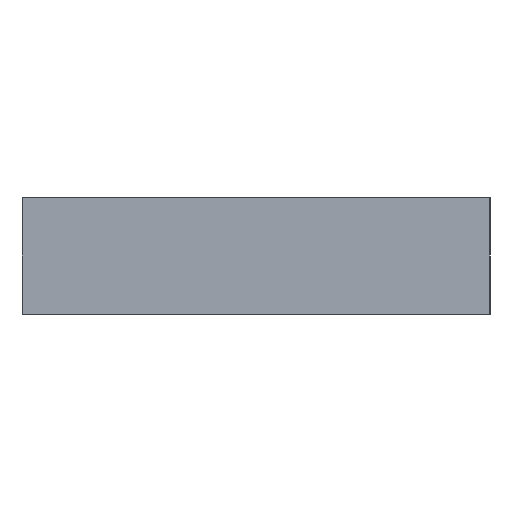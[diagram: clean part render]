
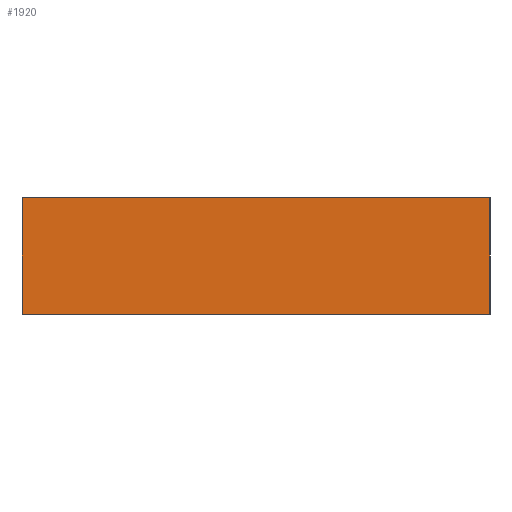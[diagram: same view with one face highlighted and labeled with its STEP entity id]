
A CAD part, left-side view. The second image highlights one B-rep face of the part: STEP entity #1920.
In plain terms, the highlighted planar face has unit normal (-1, 0, 0).
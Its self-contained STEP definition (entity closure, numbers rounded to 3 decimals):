
#98 = LINE ( 'NONE', #3029, #173 ) ;
#107 = LINE ( 'NONE', #3008, #116 ) ;
#116 = VECTOR ( 'NONE', #3009, 1000. ) ;
#173 = VECTOR ( 'NONE', #3007, 1000. ) ;
#251 = LINE ( 'NONE', #1557, #253 ) ;
#253 = VECTOR ( 'NONE', #1639, 1000. ) ;
#263 = VECTOR ( 'NONE', #1677, 1000. ) ;
#266 = LINE ( 'NONE', #1680, #263 ) ;
#415 = FACE_OUTER_BOUND ( 'NONE', #1239, .T. ) ;
#565 = ORIENTED_EDGE ( 'NONE', *, *, #4027, .F. ) ;
#815 = ORIENTED_EDGE ( 'NONE', *, *, #4021, .T. ) ;
#828 = ORIENTED_EDGE ( 'NONE', *, *, #3817, .F. ) ;
#870 = ORIENTED_EDGE ( 'NONE', *, *, #3816, .T. ) ;
#1084 = VERTEX_POINT ( 'NONE', #2542 ) ;
#1117 = VERTEX_POINT ( 'NONE', #2049 ) ;
#1162 = VERTEX_POINT ( 'NONE', #2140 ) ;
#1169 = VERTEX_POINT ( 'NONE', #2134 ) ;
#1239 = EDGE_LOOP ( 'NONE', ( #870, #828, #565, #815 ) ) ;
#1557 = CARTESIAN_POINT ( 'NONE',  ( -30., 20., 10. ) ) ;
#1639 = DIRECTION ( 'NONE',  ( 0., 0., -1. ) ) ;
#1677 = DIRECTION ( 'NONE',  ( 0., -1., 0. ) ) ;
#1680 = CARTESIAN_POINT ( 'NONE',  ( -30., 20., 10. ) ) ;
#1920 = ADVANCED_FACE ( 'NONE', ( #415 ), #2484, .F. ) ;
#2049 = CARTESIAN_POINT ( 'NONE',  ( -30., 20., 10. ) ) ;
#2134 = CARTESIAN_POINT ( 'NONE',  ( -30., 20., 0. ) ) ;
#2140 = CARTESIAN_POINT ( 'NONE',  ( -30., -20., 10. ) ) ;
#2484 = PLANE ( 'NONE',  #3951 ) ;
#2499 = DIRECTION ( 'NONE',  ( 1., 0., 0. ) ) ;
#2501 = DIRECTION ( 'NONE',  ( 0., 1., 0. ) ) ;
#2525 = CARTESIAN_POINT ( 'NONE',  ( -30., 20., 10. ) ) ;
#2542 = CARTESIAN_POINT ( 'NONE',  ( -30., -20., 0. ) ) ;
#3007 = DIRECTION ( 'NONE',  ( 0., 0., -1. ) ) ;
#3008 = CARTESIAN_POINT ( 'NONE',  ( -30., 20., 0. ) ) ;
#3009 = DIRECTION ( 'NONE',  ( 0., -1., 0. ) ) ;
#3029 = CARTESIAN_POINT ( 'NONE',  ( -30., -20., 10. ) ) ;
#3816 = EDGE_CURVE ( 'NONE', #1169, #1084, #107, .T. ) ;
#3817 = EDGE_CURVE ( 'NONE', #1162, #1084, #98, .T. ) ;
#3951 = AXIS2_PLACEMENT_3D ( 'NONE', #2525, #2499, #2501 ) ;
#4021 = EDGE_CURVE ( 'NONE', #1117, #1169, #251, .T. ) ;
#4027 = EDGE_CURVE ( 'NONE', #1117, #1162, #266, .T. ) ;
